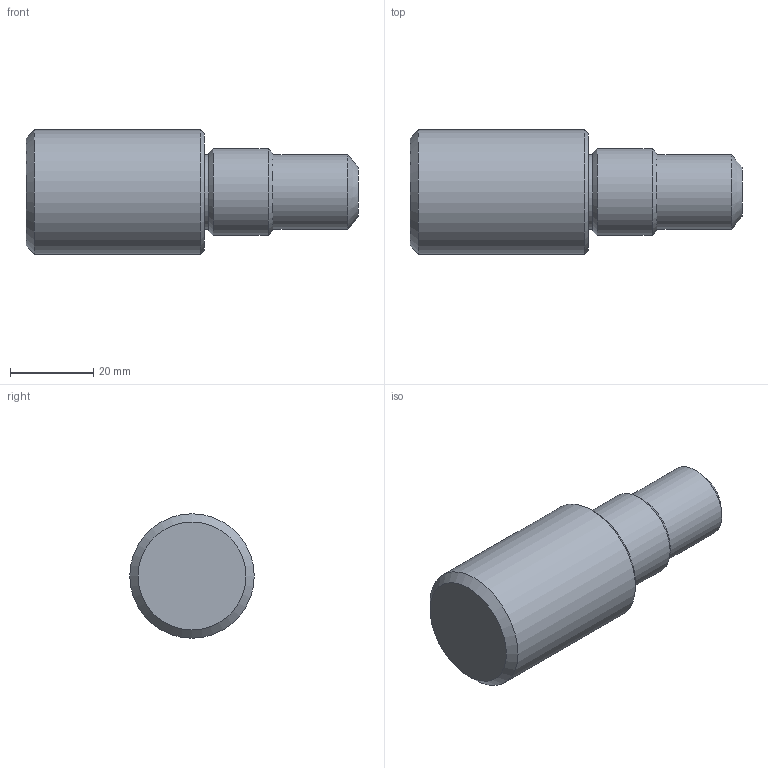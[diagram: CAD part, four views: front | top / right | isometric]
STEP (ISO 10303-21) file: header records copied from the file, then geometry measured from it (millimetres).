
FILE_DESCRIPTION( ( 'STEP AP214' ), ' ' );
FILE_NAME( 'p:/temp/worker_12/1180_1264/app_42_02016033109012530619475192d056f_000000_00_00_000000/format_0/ESD-130.stp', '2016-03-31T07:01:38', ( '' ), ( '' ), ' ', 'PARTsolutions', ' ' );
FILE_SCHEMA( ( 'AUTOMOTIVE_DESIGN { 1 0 10303 214 1 1 1 1 }' ) );
Length unit declared in the file: millimetre
Products named in the file (1): _ESD-130
Bounding box: 80 x 30 x 30 mm (x, y, z)
Volume: 40709.6 mm3; surface area: 7518.8 mm2
Topology: 1 solids, 1 shells, 14 faces, 22 edges, 13 vertices
Faces by surface type: cone 5, plane 5, cylinder 4
Full cylindrical faces by diameter (mm): 18 x2, 20.955 x1, 30 x1
Entity records: 402 total; most frequent: DIRECTION 56, CARTESIAN_POINT 41, AXIS2_PLACEMENT_3D 28, EDGE_LOOP 26, ORIENTED_EDGE 26, FACE_OUTER_BOUND 18, STYLED_ITEM 14, PRESENTATION_STYLE_ASSIGNMENT 14
